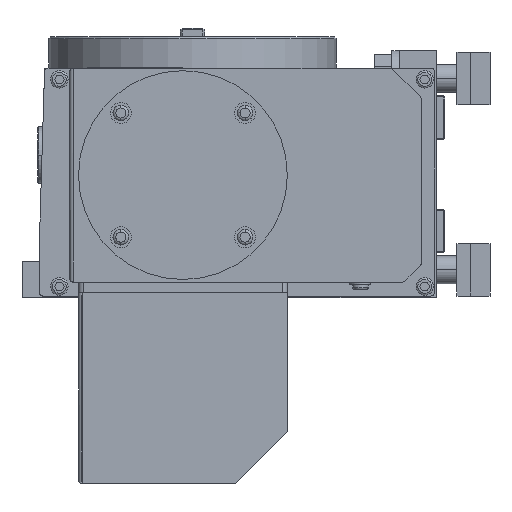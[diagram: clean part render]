
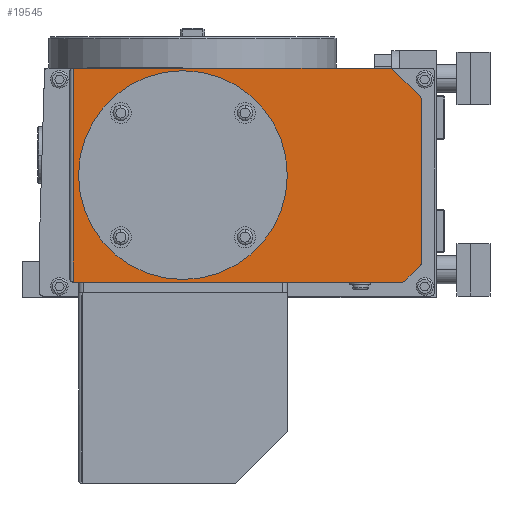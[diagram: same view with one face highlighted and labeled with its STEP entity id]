
A CAD part, left-side view. The second image highlights one B-rep face of the part: STEP entity #19545.
In plain terms, the highlighted planar face has unit normal (-1, 0, 0).
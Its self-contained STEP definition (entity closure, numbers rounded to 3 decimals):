
#1715 = LINE ( 'NONE', #84931, #79166 ) ;
#2166 = CARTESIAN_POINT ( 'NONE',  ( -179., 9.5, -17.828 ) ) ;
#2869 = VERTEX_POINT ( 'NONE', #36469 ) ;
#3392 = DIRECTION ( 'NONE',  ( 0., 0., 1. ) ) ;
#3906 = DIRECTION ( 'NONE',  ( 0., 0., 1. ) ) ;
#4738 = CARTESIAN_POINT ( 'NONE',  ( -179., 0., 0. ) ) ;
#5880 = CIRCLE ( 'NONE', #13203, 46.5 ) ;
#6075 = DIRECTION ( 'NONE',  ( -1., 0., 0. ) ) ;
#7191 = CIRCLE ( 'NONE', #83146, 46.5 ) ;
#8707 = AXIS2_PLACEMENT_3D ( 'NONE', #4738, #63035, #19421 ) ;
#9504 = DIRECTION ( 'NONE',  ( 0., 0., 1. ) ) ;
#10264 = VERTEX_POINT ( 'NONE', #19243 ) ;
#11635 = EDGE_CURVE ( 'NONE', #61205, #2869, #63636, .T. ) ;
#12188 = AXIS2_PLACEMENT_3D ( 'NONE', #90544, #47088, #3392 ) ;
#12434 = EDGE_CURVE ( 'NONE', #47214, #61205, #88257, .T. ) ;
#13203 = AXIS2_PLACEMENT_3D ( 'NONE', #49741, #6075, #57071 ) ;
#14029 = CARTESIAN_POINT ( 'NONE',  ( -179., 18.328, -121. ) ) ;
#15046 = VECTOR ( 'NONE', #71435, 1000. ) ;
#15258 = CIRCLE ( 'NONE', #91330, 2. ) ;
#16456 = EDGE_CURVE ( 'NONE', #38882, #57190, #21846, .T. ) ;
#17296 = ORIENTED_EDGE ( 'NONE', *, *, #12434, .T. ) ;
#18045 = EDGE_CURVE ( 'NONE', #56832, #94075, #22561, .T. ) ;
#19243 = CARTESIAN_POINT ( 'NONE',  ( -179., 144.5, -108. ) ) ;
#19421 = DIRECTION ( 'NONE',  ( 0., 0., 1. ) ) ;
#19545 = ADVANCED_FACE ( 'NONE', ( #80132, #63108 ), #55732, .T. ) ;
#20502 = CARTESIAN_POINT ( 'NONE',  ( -179., 209.5, -123. ) ) ;
#21351 = DIRECTION ( 'NONE',  ( 0., 0., 1. ) ) ;
#21721 = AXIS2_PLACEMENT_3D ( 'NONE', #2166, #53154, #9504 ) ;
#21846 = LINE ( 'NONE', #64007, #24117 ) ;
#22489 = DIRECTION ( 'NONE',  ( -1., 0., 0. ) ) ;
#22561 = LINE ( 'NONE', #37182, #39661 ) ;
#23735 = EDGE_CURVE ( 'NONE', #2869, #56832, #54567, .T. ) ;
#24117 = VECTOR ( 'NONE', #34668, 1000. ) ;
#24875 = VECTOR ( 'NONE', #29728, 1000. ) ;
#29378 = EDGE_CURVE ( 'NONE', #94075, #38882, #86664, .T. ) ;
#29728 = DIRECTION ( 'NONE',  ( 0., -0.707, 0.707 ) ) ;
#31160 = CARTESIAN_POINT ( 'NONE',  ( -179., 207.5, -123. ) ) ;
#34668 = DIRECTION ( 'NONE',  ( 0., 0.707, 0.707 ) ) ;
#36469 = CARTESIAN_POINT ( 'NONE',  ( -179., 8.086, -113.586 ) ) ;
#37182 = CARTESIAN_POINT ( 'NONE',  ( -179., 7.5, -113. ) ) ;
#38020 = ORIENTED_EDGE ( 'NONE', *, *, #71257, .T. ) ;
#38142 = VERTEX_POINT ( 'NONE', #51639 ) ;
#38882 = VERTEX_POINT ( 'NONE', #88960 ) ;
#39653 = ORIENTED_EDGE ( 'NONE', *, *, #66441, .T. ) ;
#39661 = VECTOR ( 'NONE', #73456, 1000. ) ;
#40264 = CARTESIAN_POINT ( 'NONE',  ( -179., 25.328, 0. ) ) ;
#41391 = DIRECTION ( 'NONE',  ( 0., 0., -1. ) ) ;
#44113 = CARTESIAN_POINT ( 'NONE',  ( -179., 7.5, -112.172 ) ) ;
#44573 = ORIENTED_EDGE ( 'NONE', *, *, #48285, .F. ) ;
#47088 = DIRECTION ( 'NONE',  ( -1., 0., 0. ) ) ;
#47214 = VERTEX_POINT ( 'NONE', #70668 ) ;
#47565 = DIRECTION ( 'NONE',  ( -1., 0., 0. ) ) ;
#48285 = EDGE_CURVE ( 'NONE', #63652, #10264, #7191, .T. ) ;
#49321 = EDGE_LOOP ( 'NONE', ( #44573, #63414 ) ) ;
#49741 = CARTESIAN_POINT ( 'NONE',  ( -179., 144.5, -61.5 ) ) ;
#49999 = LINE ( 'NONE', #87756, #86317 ) ;
#51614 = DIRECTION ( 'NONE',  ( 0., 1., 0. ) ) ;
#51639 = CARTESIAN_POINT ( 'NONE',  ( -179., 207.5, 0. ) ) ;
#53154 = DIRECTION ( 'NONE',  ( -1., 0., 0. ) ) ;
#54261 = VERTEX_POINT ( 'NONE', #40264 ) ;
#54567 = CIRCLE ( 'NONE', #12188, 2. ) ;
#55732 = PLANE ( 'NONE',  #8707 ) ;
#56832 = VERTEX_POINT ( 'NONE', #44113 ) ;
#57071 = DIRECTION ( 'NONE',  ( 0., 0., 1. ) ) ;
#57190 = VERTEX_POINT ( 'NONE', #69844 ) ;
#61205 = VERTEX_POINT ( 'NONE', #86865 ) ;
#63035 = DIRECTION ( 'NONE',  ( -1., 0., 0. ) ) ;
#63108 = FACE_OUTER_BOUND ( 'NONE', #82505, .T. ) ;
#63390 = EDGE_CURVE ( 'NONE', #10264, #63652, #5880, .T. ) ;
#63414 = ORIENTED_EDGE ( 'NONE', *, *, #63390, .F. ) ;
#63636 = LINE ( 'NONE', #80652, #24875 ) ;
#63652 = VERTEX_POINT ( 'NONE', #81460 ) ;
#64007 = CARTESIAN_POINT ( 'NONE',  ( -179., 7.5, -17. ) ) ;
#64973 = DIRECTION ( 'NONE',  ( -1., 0., 0. ) ) ;
#66107 = CARTESIAN_POINT ( 'NONE',  ( -179., 25.328, -2. ) ) ;
#66437 = ORIENTED_EDGE ( 'NONE', *, *, #11635, .T. ) ;
#66441 = EDGE_CURVE ( 'NONE', #38142, #69117, #1715, .T. ) ;
#69032 = EDGE_CURVE ( 'NONE', #54261, #38142, #49999, .T. ) ;
#69117 = VERTEX_POINT ( 'NONE', #31160 ) ;
#69844 = CARTESIAN_POINT ( 'NONE',  ( -179., 23.914, -0.586 ) ) ;
#70668 = CARTESIAN_POINT ( 'NONE',  ( -179., 18.328, -123. ) ) ;
#70876 = LINE ( 'NONE', #20502, #15046 ) ;
#71257 = EDGE_CURVE ( 'NONE', #57190, #54261, #15258, .T. ) ;
#71435 = DIRECTION ( 'NONE',  ( 0., -1., 0. ) ) ;
#72789 = ORIENTED_EDGE ( 'NONE', *, *, #76458, .T. ) ;
#73430 = DIRECTION ( 'NONE',  ( 0., 0., 1. ) ) ;
#73456 = DIRECTION ( 'NONE',  ( 0., 0., 1. ) ) ;
#74491 = ORIENTED_EDGE ( 'NONE', *, *, #69032, .T. ) ;
#76458 = EDGE_CURVE ( 'NONE', #69117, #47214, #70876, .T. ) ;
#79166 = VECTOR ( 'NONE', #41391, 1000. ) ;
#80014 = ORIENTED_EDGE ( 'NONE', *, *, #23735, .T. ) ;
#80132 = FACE_BOUND ( 'NONE', #49321, .T. ) ;
#80652 = CARTESIAN_POINT ( 'NONE',  ( -179., 17.5, -123. ) ) ;
#81460 = CARTESIAN_POINT ( 'NONE',  ( -179., 144.5, -15. ) ) ;
#81880 = AXIS2_PLACEMENT_3D ( 'NONE', #14029, #64973, #21351 ) ;
#82505 = EDGE_LOOP ( 'NONE', ( #74491, #39653, #72789, #17296, #66437, #80014, #90180, #83837, #83583, #38020 ) ) ;
#83146 = AXIS2_PLACEMENT_3D ( 'NONE', #91061, #47565, #3906 ) ;
#83583 = ORIENTED_EDGE ( 'NONE', *, *, #16456, .T. ) ;
#83837 = ORIENTED_EDGE ( 'NONE', *, *, #29378, .T. ) ;
#84931 = CARTESIAN_POINT ( 'NONE',  ( -179., 207.5, -123. ) ) ;
#86317 = VECTOR ( 'NONE', #51614, 1000. ) ;
#86664 = CIRCLE ( 'NONE', #21721, 2. ) ;
#86865 = CARTESIAN_POINT ( 'NONE',  ( -179., 16.914, -122.414 ) ) ;
#87756 = CARTESIAN_POINT ( 'NONE',  ( -179., 24.5, 0. ) ) ;
#88257 = CIRCLE ( 'NONE', #81880, 2. ) ;
#88960 = CARTESIAN_POINT ( 'NONE',  ( -179., 8.086, -16.414 ) ) ;
#89636 = CARTESIAN_POINT ( 'NONE',  ( -179., 7.5, -17.828 ) ) ;
#90180 = ORIENTED_EDGE ( 'NONE', *, *, #18045, .T. ) ;
#90544 = CARTESIAN_POINT ( 'NONE',  ( -179., 9.5, -112.172 ) ) ;
#91061 = CARTESIAN_POINT ( 'NONE',  ( -179., 144.5, -61.5 ) ) ;
#91330 = AXIS2_PLACEMENT_3D ( 'NONE', #66107, #22489, #73430 ) ;
#94075 = VERTEX_POINT ( 'NONE', #89636 ) ;
